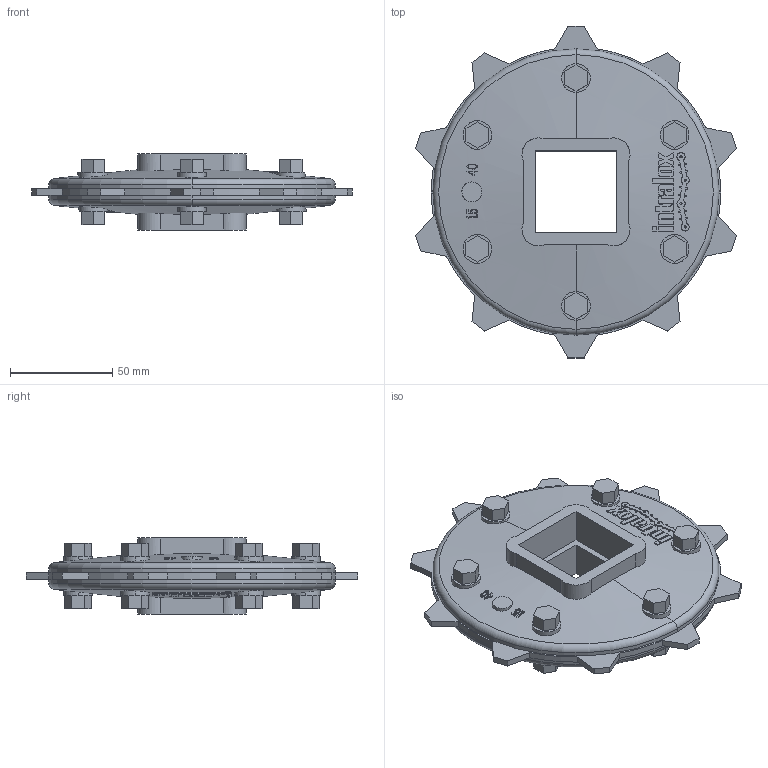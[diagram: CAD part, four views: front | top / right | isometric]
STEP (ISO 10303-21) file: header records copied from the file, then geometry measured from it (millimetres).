
FILE_DESCRIPTION((''),'2;1');
FILE_NAME('S400_SPL_METAL_64X15_40_SQ_ASM','2008-12-12T',('jmumphre'),(''),'PRO/ENGINEER BY PARAMETRIC TECHNOLOGY CORPORATION, 2008150','PRO/ENGINEER BY PARAMETRIC TECHNOLOGY CORPORATION, 2008150','');
FILE_SCHEMA(('CONFIG_CONTROL_DESIGN'));
Length unit declared in the file: inch
Products named in the file (5): S400_TP_METAL_64X26_SQ_AF0; JOINING_PLATE_6X15_40_SQ_AF2; JOINING_PLATE_6X15_40_SQ_AF3; BOLTS_N_NUTS_4-376X0-750_AF2; S400_SPL_METAL_64X15_40_SQ_ASM
Assembly tree (4 placements, depth 2):
  S400_SPL_METAL_64X15_40_SQ_ASM
    S400_TP_METAL_64X26_SQ_AF0
    JOINING_PLATE_6X15_40_SQ_AF2
    JOINING_PLATE_6X15_40_SQ_AF3
    BOLTS_N_NUTS_4-376X0-750_AF2
Bounding box: 156.47 x 161.99 x 37.08 mm (x, y, z)
Volume: 253046.7 mm3; surface area: 104985.5 mm2
Topology: 9 solids, 9 shells, 942 faces, 2560 edges, 1704 vertices
Faces by surface type: plane 614, cylinder 274, cone 50, torus 4
Entity records: 33225 total; most frequent: CARTESIAN_POINT 11627, ORIENTED_EDGE 5120, DIRECTION 3326, EDGE_CURVE 2560, VERTEX_POINT 1704, B_SPLINE_CURVE_WITH_KNOTS 1304, AXIS2_PLACEMENT_3D 1119, VECTOR 1088
